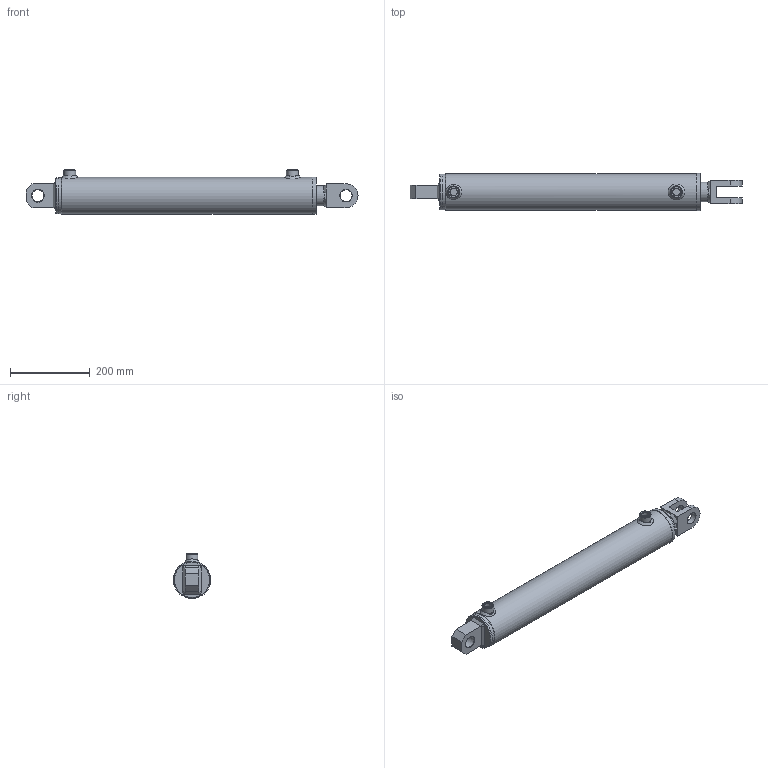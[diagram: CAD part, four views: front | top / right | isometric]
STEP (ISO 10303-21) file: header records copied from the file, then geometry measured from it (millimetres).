
FILE_DESCRIPTION( ( 'Unknown' ), '1' );
FILE_NAME( 'E:/LIBRERIA_3d/CILINDRI/HM5/HM55500500.stp', 'Unknown', ( 'Unknown' ), ( 'Unknown' ), 'PSStep 17.0.49', 'Unknown', ' ' );
FILE_SCHEMA( ( 'AUTOMOTIVE_DESIGN { 1 0 10303 214 1 1 1 1 }' ) );
Length unit declared in the file: millimetre
Products named in the file (34): STL5600500-oa7; Saldatura d'angolo 1-oa5; FTM5600500-oa6; CBSC220800; CT00080027; CG09508050; HM05500500; Saldatura con preparazione 1-oa3; Saldatura d'angolo 1-oa4; CF00080090; CBS0800000; CDA0002720; APG0800000; SBL5050500; Assem1; COF3000000; CFS0000030; Saldatura d'angolo 1-oa0; Saldatura con preparazione 1-oa1; Saldatura d'angolo 2-oa2
Assembly tree (20 placements, depth 4):
  Saldatura d'angolo 1-oa5
  Saldatura d'angolo 1-oa5
  Saldatura d'angolo 1-oa4
  Saldatura d'angolo 1-oa4
  Assem1
    COF3000000
    CFS0000030
    Saldatura con preparazione 1-oa1
    Saldatura con preparazione 1-oa1
    HM05500500
      Saldatura con preparazione 1-oa3
      Saldatura con preparazione 1-oa3
      CF00080090
      CBS0800000
      CDA0002720
      APG0800000  x2
      SBL5050500
      CT00080027
        CT00080027
      CG09508050
        CG09508050
      STL5600500-oa7
        FTM5600500-oa6
        CBSC220800
Bounding box: 835 x 94 x 113 mm (x, y, z)
Volume: 2971980.3 mm3; surface area: 635513.3 mm2
Topology: 30 solids, 30 shells, 303 faces, 634 edges, 394 vertices
Faces by surface type: plane 112, cylinder 75, cone 52, torus 36, bspline 28
Full cylindrical faces by diameter (mm): 4.25 x3, 8 x2, 12 x1, 18.631 x2, 19.5 x2, 20.95 x2, 26 x2, 26.4 x1, 27 x5, 30 x2, 30.25 x3, 33.2 x1, 41 x1, 50 x7, 53 x3, 58.6 x1, 60 x2, 74.16 x2, 75 x1, 78.34 x2, 79.9 x1, 80 x1, 80.3 x1, 80.5 x1, 80.6 x1, 81 x1, 82 x3, 82.835 x1, 85 x1, 90 x3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
Entity records: 13045 total; most frequent: CARTESIAN_POINT 5128, DIRECTION 1168, ORIENTED_EDGE 828, AXIS2_PLACEMENT_3D 527, EDGE_LOOP 495, EDGE_CURVE 414, FACE_OUTER_BOUND 402, VERTEX_POINT 338
